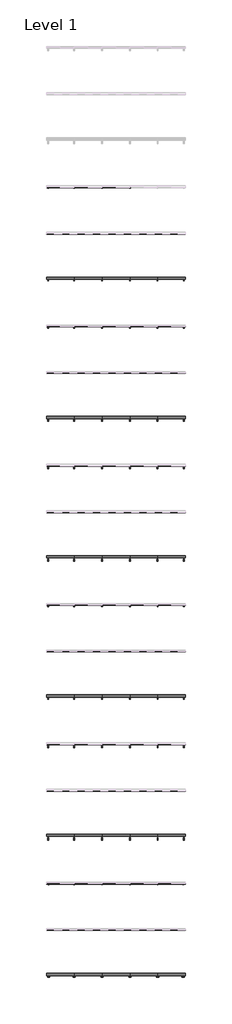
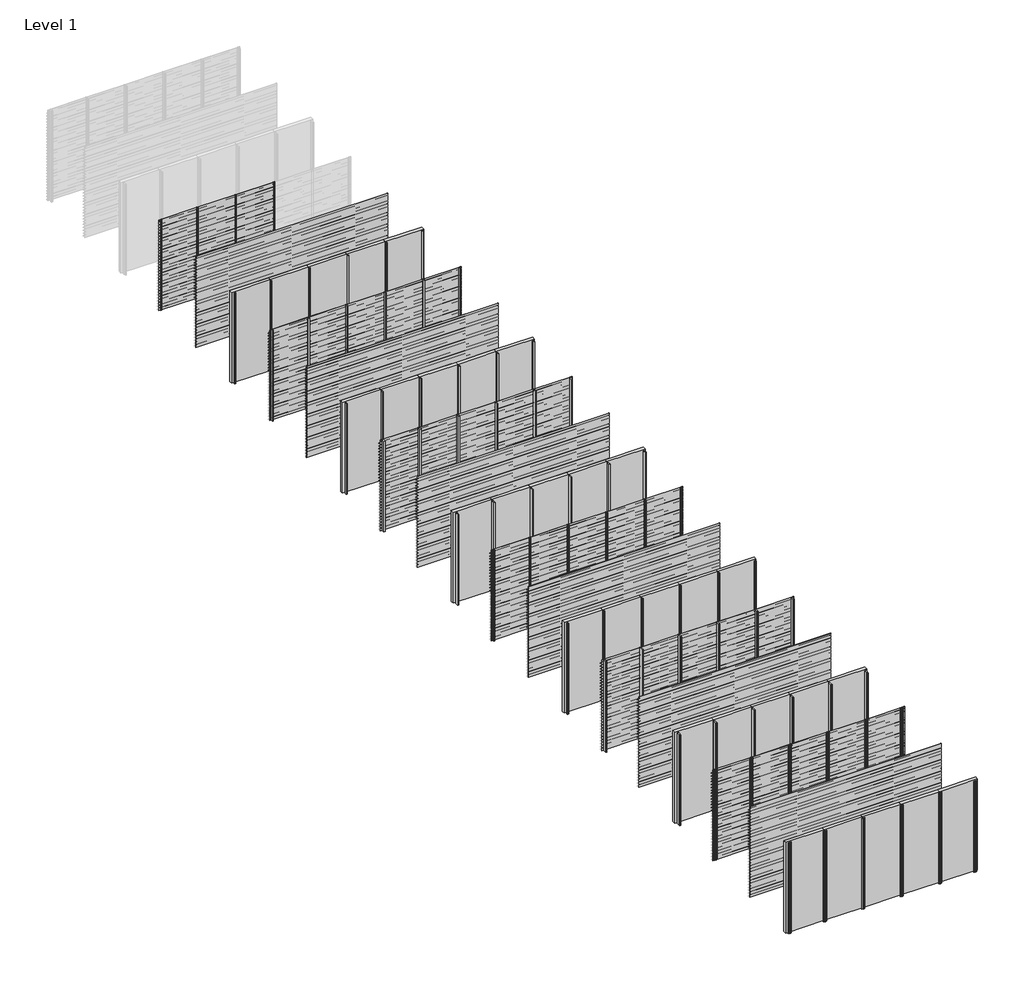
# One storey, part 1 of 24: 70 members, 64 plates.
"""IFC4 building model written with IfcOpenShell, lengths in millimetres."""

from ifc_helpers import new_model, si_unit, origin, origin_with_axes, place, context, project, spatial, polyline, outline, extrude, transform, mapped, element, save
from components import rectangular_mullion_3facce28, rectangular_mullion_6cf2c509, rectangular_mullion_8b77bd57, rectangular_mullion_2c867e25, rectangular_mullion_7803f5c4, rectangular_mullion_82152e2f, rectangular_mullion_2b84ad7e, rectangular_mullion_0fd695e7, rectangular_mullion_9b796d85, rectangular_mullion_dfb17e98, rectangular_mullion_6132f1f1, rectangular_mullion_8f153c19, rectangular_mullion_5b30f3fd, rectangular_mullion_5e0e8e0a, rectangular_mullion_d2d38772, rectangular_mullion_efb80f74, rectangular_mullion_aaa1fb1b, rectangular_mullion_ea9d012c, empty_system_panel_empty_aabbdda4

model = new_model("IFC4")

# Units and contexts
model_context = context("Model", 3, world=origin())
ifc_project = project(units=[si_unit("LENGTHUNIT", "METRE", prefix="MILLI")], contexts=[model_context])

# Site, building, storey
site = spatial("IfcSite", under=ifc_project)
building = spatial("IfcBuilding", under=site)
storey = spatial("IfcBuildingStorey", under=building, Name="Level 1", Elevation=0.0)

# Members
placement = place(None, origin())
rectangular_mullion_shape = rectangular_mullion_3facce28(model_context)
element("IfcMember", 1, ObjectType="Rectangular Mullion : NLRS_21_CWM_drager SD.014_Storax", at=placement, inside=storey, context=model_context, shape_type="MappedRepresentation", body=[
    mapped(rectangular_mullion_shape, transform((3600.0, -24000.0, 0.0), x_axis=(-1.0, 0.0, 0.0), y_axis=(0.0, 1.0, 0.0), z_axis=(0.0, 0.0, -1.0))),
])
element("IfcMember", 2, ObjectType="Rectangular Mullion : NLRS_21_CWM_drager SD.014_Storax", at=placement, inside=storey, context=model_context, shape_type="MappedRepresentation", body=[
    mapped(rectangular_mullion_shape, transform((2400.0, -24000.0, 0.0), x_axis=(-1.0, 0.0, 0.0), y_axis=(0.0, 1.0, 0.0), z_axis=(0.0, 0.0, -1.0))),
])
element("IfcMember", 3, ObjectType="Rectangular Mullion : NLRS_21_CWM_drager SD.014_Storax", at=placement, inside=storey, context=model_context, shape_type="MappedRepresentation", body=[
    mapped(rectangular_mullion_shape, transform((1200.0, -24000.0, 0.0), x_axis=(-1.0, 0.0, 0.0), y_axis=(0.0, 1.0, 0.0), z_axis=(0.0, 0.0, -1.0))),
])
element("IfcMember", 4, ObjectType="Rectangular Mullion : NLRS_21_CWM_drager SD.014_Storax", at=placement, inside=storey, context=model_context, shape_type="MappedRepresentation", body=[
    mapped(rectangular_mullion_shape, transform((4800.0, -28000.0, 0.0), x_axis=(-1.0, 0.0, 0.0), y_axis=(0.0, 1.0, 0.0), z_axis=(0.0, 0.0, -1.0))),
])
element("IfcMember", 5, ObjectType="Rectangular Mullion : NLRS_21_CWM_drager SD.014_Storax", at=placement, inside=storey, context=model_context, shape_type="MappedRepresentation", body=[
    mapped(rectangular_mullion_shape, transform((3600.0, -28000.0, 0.0), x_axis=(-1.0, 0.0, 0.0), y_axis=(0.0, 1.0, 0.0), z_axis=(0.0, 0.0, -1.0))),
])
element("IfcMember", 6, ObjectType="Rectangular Mullion : NLRS_21_CWM_drager SD.014_Storax", at=placement, inside=storey, context=model_context, shape_type="MappedRepresentation", body=[
    mapped(rectangular_mullion_shape, transform((2400.0, -28000.0, 0.0), x_axis=(-1.0, 0.0, 0.0), y_axis=(0.0, 1.0, 0.0), z_axis=(0.0, 0.0, -1.0))),
])
element("IfcMember", 7, ObjectType="Rectangular Mullion : NLRS_21_CWM_drager SD.014_Storax", at=placement, inside=storey, context=model_context, shape_type="MappedRepresentation", body=[
    mapped(rectangular_mullion_shape, transform((1200.0, -28000.0, 0.0), x_axis=(-1.0, 0.0, 0.0), y_axis=(0.0, 1.0, 0.0), z_axis=(0.0, 0.0, -1.0))),
])
rectangular_mullion_2_shape = rectangular_mullion_6cf2c509(model_context)
element("IfcMember", 8, ObjectType="Rectangular Mullion : NLRS_21_CWM_drager SD.054_Storax", at=placement, inside=storey, context=model_context, shape_type="MappedRepresentation", body=[
    mapped(rectangular_mullion_2_shape, transform((4800.0, -30000.0, 0.0), x_axis=(-1.0, 0.0, 0.0), y_axis=(0.0, 1.0, 0.0), z_axis=(0.0, 0.0, -1.0))),
])
element("IfcMember", 9, ObjectType="Rectangular Mullion : NLRS_21_CWM_drager SD.054_Storax", at=placement, inside=storey, context=model_context, shape_type="MappedRepresentation", body=[
    mapped(rectangular_mullion_2_shape, transform((3600.0, -30000.0, 0.0), x_axis=(-1.0, 0.0, 0.0), y_axis=(0.0, 1.0, 0.0), z_axis=(0.0, 0.0, -1.0))),
])
element("IfcMember", 10, ObjectType="Rectangular Mullion : NLRS_21_CWM_drager SD.054_Storax", at=placement, inside=storey, context=model_context, shape_type="MappedRepresentation", body=[
    mapped(rectangular_mullion_2_shape, transform((2400.0, -30000.0, 0.0), x_axis=(-1.0, 0.0, 0.0), y_axis=(0.0, 1.0, 0.0), z_axis=(0.0, 0.0, -1.0))),
])
element("IfcMember", 11, ObjectType="Rectangular Mullion : NLRS_21_CWM_drager SD.054_Storax", at=placement, inside=storey, context=model_context, shape_type="MappedRepresentation", body=[
    mapped(rectangular_mullion_2_shape, transform((1200.0, -30000.0, 0.0), x_axis=(-1.0, 0.0, 0.0), y_axis=(0.0, 1.0, 0.0), z_axis=(0.0, 0.0, -1.0))),
])
element("IfcMember", 12, ObjectType="Rectangular Mullion : NLRS_21_CWM_drager SD.054_Storax", at=placement, inside=storey, context=model_context, shape_type="MappedRepresentation", body=[
    mapped(rectangular_mullion_2_shape, transform((4800.0, -34000.0, 0.0), x_axis=(-1.0, 0.0, 0.0), y_axis=(0.0, 1.0, 0.0), z_axis=(0.0, 0.0, -1.0))),
])
element("IfcMember", 13, ObjectType="Rectangular Mullion : NLRS_21_CWM_drager SD.054_Storax", at=placement, inside=storey, context=model_context, shape_type="MappedRepresentation", body=[
    mapped(rectangular_mullion_2_shape, transform((3600.0, -34000.0, 0.0), x_axis=(-1.0, 0.0, 0.0), y_axis=(0.0, 1.0, 0.0), z_axis=(0.0, 0.0, -1.0))),
])
element("IfcMember", 14, ObjectType="Rectangular Mullion : NLRS_21_CWM_drager SD.054_Storax", at=placement, inside=storey, context=model_context, shape_type="MappedRepresentation", body=[
    mapped(rectangular_mullion_2_shape, transform((2400.0, -34000.0, 0.0), x_axis=(-1.0, 0.0, 0.0), y_axis=(0.0, 1.0, 0.0), z_axis=(0.0, 0.0, -1.0))),
])
element("IfcMember", 15, ObjectType="Rectangular Mullion : NLRS_21_CWM_drager SD.054_Storax", at=placement, inside=storey, context=model_context, shape_type="MappedRepresentation", body=[
    mapped(rectangular_mullion_2_shape, transform((1200.0, -34000.0, 0.0), x_axis=(-1.0, 0.0, 0.0), y_axis=(0.0, 1.0, 0.0), z_axis=(0.0, 0.0, -1.0))),
])
rectangular_mullion_3_shape = rectangular_mullion_8b77bd57(model_context)
element("IfcMember", 16, ObjectType="Rectangular Mullion : NLRS_21_CWM_drager SD.100_Storax", at=placement, inside=storey, context=model_context, shape_type="MappedRepresentation", body=[
    mapped(rectangular_mullion_3_shape, transform((4800.0, -36000.0, 0.0), x_axis=(-1.0, 0.0, 0.0), y_axis=(0.0, 1.0, 0.0), z_axis=(0.0, 0.0, -1.0))),
])
element("IfcMember", 17, ObjectType="Rectangular Mullion : NLRS_21_CWM_drager SD.100_Storax", at=placement, inside=storey, context=model_context, shape_type="MappedRepresentation", body=[
    mapped(rectangular_mullion_3_shape, transform((3600.0, -36000.0, 0.0), x_axis=(-1.0, 0.0, 0.0), y_axis=(0.0, 1.0, 0.0), z_axis=(0.0, 0.0, -1.0))),
])
element("IfcMember", 18, ObjectType="Rectangular Mullion : NLRS_21_CWM_drager SD.100_Storax", at=placement, inside=storey, context=model_context, shape_type="MappedRepresentation", body=[
    mapped(rectangular_mullion_3_shape, transform((2400.0, -36000.0, 0.0), x_axis=(-1.0, 0.0, 0.0), y_axis=(0.0, 1.0, 0.0), z_axis=(0.0, 0.0, -1.0))),
])
element("IfcMember", 19, ObjectType="Rectangular Mullion : NLRS_21_CWM_drager SD.100_Storax", at=placement, inside=storey, context=model_context, shape_type="MappedRepresentation", body=[
    mapped(rectangular_mullion_3_shape, transform((1200.0, -36000.0, 0.0), x_axis=(-1.0, 0.0, 0.0), y_axis=(0.0, 1.0, 0.0), z_axis=(0.0, 0.0, -1.0))),
])
element("IfcMember", 20, ObjectType="Rectangular Mullion : NLRS_21_CWM_drager SD.100_Storax", at=placement, inside=storey, context=model_context, shape_type="MappedRepresentation", body=[
    mapped(rectangular_mullion_3_shape, transform((4800.0, -40000.0, 0.0), x_axis=(-1.0, 0.0, 0.0), y_axis=(0.0, 1.0, 0.0), z_axis=(0.0, 0.0, -1.0))),
])
element("IfcMember", 21, ObjectType="Rectangular Mullion : NLRS_21_CWM_drager SD.100_Storax", at=placement, inside=storey, context=model_context, shape_type="MappedRepresentation", body=[
    mapped(rectangular_mullion_3_shape, transform((3600.0, -40000.0, 0.0), x_axis=(-1.0, 0.0, 0.0), y_axis=(0.0, 1.0, 0.0), z_axis=(0.0, 0.0, -1.0))),
])
element("IfcMember", 22, ObjectType="Rectangular Mullion : NLRS_21_CWM_drager SD.100_Storax", at=placement, inside=storey, context=model_context, shape_type="MappedRepresentation", body=[
    mapped(rectangular_mullion_3_shape, transform((2400.0, -40000.0, 0.0), x_axis=(-1.0, 0.0, 0.0), y_axis=(0.0, 1.0, 0.0), z_axis=(0.0, 0.0, -1.0))),
])
element("IfcMember", 23, ObjectType="Rectangular Mullion : NLRS_21_CWM_drager SD.100_Storax", at=placement, inside=storey, context=model_context, shape_type="MappedRepresentation", body=[
    mapped(rectangular_mullion_3_shape, transform((1200.0, -40000.0, 0.0), x_axis=(-1.0, 0.0, 0.0), y_axis=(0.0, 1.0, 0.0), z_axis=(0.0, 0.0, -1.0))),
])
rectangular_mullion_4_shape = rectangular_mullion_2c867e25(model_context)
element("IfcMember", 24, ObjectType="Rectangular Mullion : NLRS_21_CWM_drager LD.0440_Storax", at=placement, inside=storey, context=model_context, shape_type="MappedRepresentation", body=[
    mapped(rectangular_mullion_4_shape, transform((4800.0, -42000.0, 0.0), x_axis=(-1.0, 0.0, 0.0), y_axis=(0.0, 1.0, 0.0), z_axis=(0.0, 0.0, -1.0))),
])
element("IfcMember", 25, ObjectType="Rectangular Mullion : NLRS_21_CWM_drager LD.0440_Storax", at=placement, inside=storey, context=model_context, shape_type="MappedRepresentation", body=[
    mapped(rectangular_mullion_4_shape, transform((3600.0, -42000.0, 0.0), x_axis=(-1.0, 0.0, 0.0), y_axis=(0.0, 1.0, 0.0), z_axis=(0.0, 0.0, -1.0))),
])
element("IfcMember", 26, ObjectType="Rectangular Mullion : NLRS_21_CWM_drager LD.0440_Storax", at=placement, inside=storey, context=model_context, shape_type="MappedRepresentation", body=[
    mapped(rectangular_mullion_4_shape, transform((2400.0, -42000.0, 0.0), x_axis=(-1.0, 0.0, 0.0), y_axis=(0.0, 1.0, 0.0), z_axis=(0.0, 0.0, -1.0))),
])
element("IfcMember", 27, ObjectType="Rectangular Mullion : NLRS_21_CWM_drager LD.0440_Storax", at=placement, inside=storey, context=model_context, shape_type="MappedRepresentation", body=[
    mapped(rectangular_mullion_4_shape, transform((1200.0, -42000.0, 0.0), x_axis=(-1.0, 0.0, 0.0), y_axis=(0.0, 1.0, 0.0), z_axis=(0.0, 0.0, -1.0))),
])
element("IfcMember", 28, ObjectType="Rectangular Mullion : NLRS_21_CWM_drager LD.0440_Storax", at=placement, inside=storey, context=model_context, shape_type="MappedRepresentation", body=[
    mapped(rectangular_mullion_4_shape, transform((4800.0, -46000.0, 0.0), x_axis=(-1.0, 0.0, 0.0), y_axis=(0.0, 1.0, 0.0), z_axis=(0.0, 0.0, -1.0))),
])
element("IfcMember", 29, ObjectType="Rectangular Mullion : NLRS_21_CWM_drager LD.0440_Storax", at=placement, inside=storey, context=model_context, shape_type="MappedRepresentation", body=[
    mapped(rectangular_mullion_4_shape, transform((3600.0, -46000.0, 0.0), x_axis=(-1.0, 0.0, 0.0), y_axis=(0.0, 1.0, 0.0), z_axis=(0.0, 0.0, -1.0))),
])
element("IfcMember", 30, ObjectType="Rectangular Mullion : NLRS_21_CWM_drager LD.0440_Storax", at=placement, inside=storey, context=model_context, shape_type="MappedRepresentation", body=[
    mapped(rectangular_mullion_4_shape, transform((2400.0, -46000.0, 0.0), x_axis=(-1.0, 0.0, 0.0), y_axis=(0.0, 1.0, 0.0), z_axis=(0.0, 0.0, -1.0))),
])
element("IfcMember", 31, ObjectType="Rectangular Mullion : NLRS_21_CWM_drager LD.0440_Storax", at=placement, inside=storey, context=model_context, shape_type="MappedRepresentation", body=[
    mapped(rectangular_mullion_4_shape, transform((1200.0, -46000.0, 0.0), x_axis=(-1.0, 0.0, 0.0), y_axis=(0.0, 1.0, 0.0), z_axis=(0.0, 0.0, -1.0))),
])
rectangular_mullion_5_shape = rectangular_mullion_7803f5c4(model_context)
element("IfcMember", 32, ObjectType="Rectangular Mullion : NLRS_21_CWM_drager LD.1250_Storax", at=placement, inside=storey, context=model_context, shape_type="MappedRepresentation", body=[
    mapped(rectangular_mullion_5_shape, transform((4800.0, -48000.0, 0.0), x_axis=(-1.0, 0.0, 0.0), y_axis=(0.0, 1.0, 0.0), z_axis=(0.0, 0.0, -1.0))),
])
element("IfcMember", 33, ObjectType="Rectangular Mullion : NLRS_21_CWM_drager LD.1250_Storax", at=placement, inside=storey, context=model_context, shape_type="MappedRepresentation", body=[
    mapped(rectangular_mullion_5_shape, transform((3600.0, -48000.0, 0.0), x_axis=(-1.0, 0.0, 0.0), y_axis=(0.0, 1.0, 0.0), z_axis=(0.0, 0.0, -1.0))),
])
element("IfcMember", 34, ObjectType="Rectangular Mullion : NLRS_21_CWM_drager LD.1250_Storax", at=placement, inside=storey, context=model_context, shape_type="MappedRepresentation", body=[
    mapped(rectangular_mullion_5_shape, transform((2400.0, -48000.0, 0.0), x_axis=(-1.0, 0.0, 0.0), y_axis=(0.0, 1.0, 0.0), z_axis=(0.0, 0.0, -1.0))),
])
element("IfcMember", 35, ObjectType="Rectangular Mullion : NLRS_21_CWM_drager LD.1250_Storax", at=placement, inside=storey, context=model_context, shape_type="MappedRepresentation", body=[
    mapped(rectangular_mullion_5_shape, transform((1200.0, -48000.0, 0.0), x_axis=(-1.0, 0.0, 0.0), y_axis=(0.0, 1.0, 0.0), z_axis=(0.0, 0.0, -1.0))),
])
element("IfcMember", 36, ObjectType="Rectangular Mullion : NLRS_21_CWM_drager LD.1250_Storax", at=placement, inside=storey, context=model_context, shape_type="MappedRepresentation", body=[
    mapped(rectangular_mullion_5_shape, transform((4800.0, -52000.0, 0.0), x_axis=(-1.0, 0.0, 0.0), y_axis=(0.0, 1.0, 0.0), z_axis=(0.0, 0.0, -1.0))),
])
element("IfcMember", 37, ObjectType="Rectangular Mullion : NLRS_21_CWM_drager LD.1250_Storax", at=placement, inside=storey, context=model_context, shape_type="MappedRepresentation", body=[
    mapped(rectangular_mullion_5_shape, transform((3600.0, -52000.0, 0.0), x_axis=(-1.0, 0.0, 0.0), y_axis=(0.0, 1.0, 0.0), z_axis=(0.0, 0.0, -1.0))),
])
element("IfcMember", 38, ObjectType="Rectangular Mullion : NLRS_21_CWM_drager LD.1250_Storax", at=placement, inside=storey, context=model_context, shape_type="MappedRepresentation", body=[
    mapped(rectangular_mullion_5_shape, transform((2400.0, -52000.0, 0.0), x_axis=(-1.0, 0.0, 0.0), y_axis=(0.0, 1.0, 0.0), z_axis=(0.0, 0.0, -1.0))),
])
element("IfcMember", 39, ObjectType="Rectangular Mullion : NLRS_21_CWM_drager LD.1250_Storax", at=placement, inside=storey, context=model_context, shape_type="MappedRepresentation", body=[
    mapped(rectangular_mullion_5_shape, transform((1200.0, -52000.0, 0.0), x_axis=(-1.0, 0.0, 0.0), y_axis=(0.0, 1.0, 0.0), z_axis=(0.0, 0.0, -1.0))),
])
rectangular_mullion_6_shape = rectangular_mullion_82152e2f(model_context)
element("IfcMember", 40, ObjectType="Rectangular Mullion : NLRS_21_CWM_drager LD.0240_Storax", at=placement, inside=storey, context=model_context, shape_type="MappedRepresentation", body=[
    mapped(rectangular_mullion_6_shape, transform((4800.0, -54000.0, 0.0), x_axis=(-1.0, 0.0, 0.0), y_axis=(0.0, 1.0, 0.0), z_axis=(0.0, 0.0, -1.0))),
])
element("IfcMember", 41, ObjectType="Rectangular Mullion : NLRS_21_CWM_drager LD.0240_Storax", at=placement, inside=storey, context=model_context, shape_type="MappedRepresentation", body=[
    mapped(rectangular_mullion_6_shape, transform((3600.0, -54000.0, 0.0), x_axis=(-1.0, 0.0, 0.0), y_axis=(0.0, 1.0, 0.0), z_axis=(0.0, 0.0, -1.0))),
])
element("IfcMember", 42, ObjectType="Rectangular Mullion : NLRS_21_CWM_drager LD.0240_Storax", at=placement, inside=storey, context=model_context, shape_type="MappedRepresentation", body=[
    mapped(rectangular_mullion_6_shape, transform((2400.0, -54000.0, 0.0), x_axis=(-1.0, 0.0, 0.0), y_axis=(0.0, 1.0, 0.0), z_axis=(0.0, 0.0, -1.0))),
])
element("IfcMember", 43, ObjectType="Rectangular Mullion : NLRS_21_CWM_drager LD.0240_Storax", at=placement, inside=storey, context=model_context, shape_type="MappedRepresentation", body=[
    mapped(rectangular_mullion_6_shape, transform((1200.0, -54000.0, 0.0), x_axis=(-1.0, 0.0, 0.0), y_axis=(0.0, 1.0, 0.0), z_axis=(0.0, 0.0, -1.0))),
])
element("IfcMember", 44, ObjectType="Rectangular Mullion : NLRS_21_CWM_drager LD.0240_Storax", at=placement, inside=storey, context=model_context, shape_type="MappedRepresentation", body=[
    mapped(rectangular_mullion_6_shape, transform((4800.0, -58000.0, 0.0), x_axis=(-1.0, 0.0, 0.0), y_axis=(0.0, 1.0, 0.0), z_axis=(0.0, 0.0, -1.0))),
])
element("IfcMember", 45, ObjectType="Rectangular Mullion : NLRS_21_CWM_drager LD.0240_Storax", at=placement, inside=storey, context=model_context, shape_type="MappedRepresentation", body=[
    mapped(rectangular_mullion_6_shape, transform((3600.0, -58000.0, 0.0), x_axis=(-1.0, 0.0, 0.0), y_axis=(0.0, 1.0, 0.0), z_axis=(0.0, 0.0, -1.0))),
])
element("IfcMember", 46, ObjectType="Rectangular Mullion : NLRS_21_CWM_drager LD.0240_Storax", at=placement, inside=storey, context=model_context, shape_type="MappedRepresentation", body=[
    mapped(rectangular_mullion_6_shape, transform((2400.0, -58000.0, 0.0), x_axis=(-1.0, 0.0, 0.0), y_axis=(0.0, 1.0, 0.0), z_axis=(0.0, 0.0, -1.0))),
])
element("IfcMember", 47, ObjectType="Rectangular Mullion : NLRS_21_CWM_drager LD.0240_Storax", at=placement, inside=storey, context=model_context, shape_type="MappedRepresentation", body=[
    mapped(rectangular_mullion_6_shape, transform((1200.0, -58000.0, 0.0), x_axis=(-1.0, 0.0, 0.0), y_axis=(0.0, 1.0, 0.0), z_axis=(0.0, 0.0, -1.0))),
])
rectangular_mullion_7_shape = rectangular_mullion_2b84ad7e(model_context)
element("IfcMember", 48, ObjectType="Rectangular Mullion : NLRS_21_CWM_drager SD.014 - links_Storax", at=placement, inside=storey, context=model_context, shape_type="MappedRepresentation", body=[
    mapped(rectangular_mullion_7_shape, transform((0.0, -24000.0, 0.0), x_axis=(-1.0, 0.0, 0.0), y_axis=(0.0, 1.0, 0.0), z_axis=(0.0, 0.0, -1.0))),
])
element("IfcMember", 49, ObjectType="Rectangular Mullion : NLRS_21_CWM_drager SD.014 - links_Storax", at=placement, inside=storey, context=model_context, shape_type="MappedRepresentation", body=[
    mapped(rectangular_mullion_7_shape, transform((0.0, -28000.0, 0.0), x_axis=(-1.0, 0.0, 0.0), y_axis=(0.0, 1.0, 0.0), z_axis=(0.0, 0.0, -1.0))),
])
rectangular_mullion_8_shape = rectangular_mullion_0fd695e7(model_context)
element("IfcMember", 50, ObjectType="Rectangular Mullion : NLRS_21_CWM_drager SD.014 - rechts_Storax", at=placement, inside=storey, context=model_context, shape_type="MappedRepresentation", body=[
    mapped(rectangular_mullion_8_shape, transform((6000.0, -28000.0, 3000.0), x_axis=(1.0, 0.0, 0.0), y_axis=(0.0, 1.0, 0.0), z_axis=(0.0, 0.0, 1.0))),
])
rectangular_mullion_9_shape = rectangular_mullion_9b796d85(model_context)
element("IfcMember", 51, ObjectType="Rectangular Mullion : NLRS_21_CWM_drager SD.054 - links_Storax", at=placement, inside=storey, context=model_context, shape_type="MappedRepresentation", body=[
    mapped(rectangular_mullion_9_shape, transform((0.0, -30000.0, 0.0), x_axis=(-1.0, 0.0, 0.0), y_axis=(0.0, 1.0, 0.0), z_axis=(0.0, 0.0, -1.0))),
])
element("IfcMember", 52, ObjectType="Rectangular Mullion : NLRS_21_CWM_drager SD.054 - links_Storax", at=placement, inside=storey, context=model_context, shape_type="MappedRepresentation", body=[
    mapped(rectangular_mullion_9_shape, transform((0.0, -34000.0, 0.0), x_axis=(-1.0, 0.0, 0.0), y_axis=(0.0, 1.0, 0.0), z_axis=(0.0, 0.0, -1.0))),
])
rectangular_mullion_10_shape = rectangular_mullion_dfb17e98(model_context)
element("IfcMember", 53, ObjectType="Rectangular Mullion : NLRS_21_CWM_drager SD.054 - rechts_Storax", at=placement, inside=storey, context=model_context, shape_type="MappedRepresentation", body=[
    mapped(rectangular_mullion_10_shape, transform((6000.0, -30000.0, 3000.0), x_axis=(1.0, 0.0, 0.0), y_axis=(0.0, 1.0, 0.0), z_axis=(0.0, 0.0, 1.0))),
])
element("IfcMember", 54, ObjectType="Rectangular Mullion : NLRS_21_CWM_drager SD.054 - rechts_Storax", at=placement, inside=storey, context=model_context, shape_type="MappedRepresentation", body=[
    mapped(rectangular_mullion_10_shape, transform((6000.0, -34000.0, 3000.0), x_axis=(1.0, 0.0, 0.0), y_axis=(0.0, 1.0, 0.0), z_axis=(0.0, 0.0, 1.0))),
])
rectangular_mullion_11_shape = rectangular_mullion_6132f1f1(model_context)
element("IfcMember", 55, ObjectType="Rectangular Mullion : NLRS_21_CWM_drager SD.100 - links_Storax", at=placement, inside=storey, context=model_context, shape_type="MappedRepresentation", body=[
    mapped(rectangular_mullion_11_shape, transform((0.0, -36000.0, 0.0), x_axis=(-1.0, 0.0, 0.0), y_axis=(0.0, 1.0, 0.0), z_axis=(0.0, 0.0, -1.0))),
])
element("IfcMember", 56, ObjectType="Rectangular Mullion : NLRS_21_CWM_drager SD.100 - links_Storax", at=placement, inside=storey, context=model_context, shape_type="MappedRepresentation", body=[
    mapped(rectangular_mullion_11_shape, transform((0.0, -40000.0, 0.0), x_axis=(-1.0, 0.0, 0.0), y_axis=(0.0, 1.0, 0.0), z_axis=(0.0, 0.0, -1.0))),
])
rectangular_mullion_12_shape = rectangular_mullion_8f153c19(model_context)
element("IfcMember", 57, ObjectType="Rectangular Mullion : NLRS_21_CWM_drager SD.100 - rechts_Storax", at=placement, inside=storey, context=model_context, shape_type="MappedRepresentation", body=[
    mapped(rectangular_mullion_12_shape, transform((6000.0, -36000.0, 3000.0), x_axis=(1.0, 0.0, 0.0), y_axis=(0.0, 1.0, 0.0), z_axis=(0.0, 0.0, 1.0))),
])
element("IfcMember", 58, ObjectType="Rectangular Mullion : NLRS_21_CWM_drager SD.100 - rechts_Storax", at=placement, inside=storey, context=model_context, shape_type="MappedRepresentation", body=[
    mapped(rectangular_mullion_12_shape, transform((6000.0, -40000.0, 3000.0), x_axis=(1.0, 0.0, 0.0), y_axis=(0.0, 1.0, 0.0), z_axis=(0.0, 0.0, 1.0))),
])
rectangular_mullion_13_shape = rectangular_mullion_5b30f3fd(model_context)
element("IfcMember", 59, ObjectType="Rectangular Mullion : NLRS_21_CWM_drager LD.0440 - links_Storax", at=placement, inside=storey, context=model_context, shape_type="MappedRepresentation", body=[
    mapped(rectangular_mullion_13_shape, transform((0.0, -42000.0, 0.0), x_axis=(-1.0, 0.0, 0.0), y_axis=(0.0, 1.0, 0.0), z_axis=(0.0, 0.0, -1.0))),
])
element("IfcMember", 60, ObjectType="Rectangular Mullion : NLRS_21_CWM_drager LD.0440 - links_Storax", at=placement, inside=storey, context=model_context, shape_type="MappedRepresentation", body=[
    mapped(rectangular_mullion_13_shape, transform((0.0, -46000.0, 0.0), x_axis=(-1.0, 0.0, 0.0), y_axis=(0.0, 1.0, 0.0), z_axis=(0.0, 0.0, -1.0))),
])
rectangular_mullion_14_shape = rectangular_mullion_5e0e8e0a(model_context)
element("IfcMember", 61, ObjectType="Rectangular Mullion : NLRS_21_CWM_drager LD.0440 - rechts_Storax", at=placement, inside=storey, context=model_context, shape_type="MappedRepresentation", body=[
    mapped(rectangular_mullion_14_shape, transform((6000.0, -42000.0, 3000.0), x_axis=(1.0, 0.0, 0.0), y_axis=(0.0, 1.0, 0.0), z_axis=(0.0, 0.0, 1.0))),
])
element("IfcMember", 62, ObjectType="Rectangular Mullion : NLRS_21_CWM_drager LD.0440 - rechts_Storax", at=placement, inside=storey, context=model_context, shape_type="MappedRepresentation", body=[
    mapped(rectangular_mullion_14_shape, transform((6000.0, -46000.0, 3000.0), x_axis=(1.0, 0.0, 0.0), y_axis=(0.0, 1.0, 0.0), z_axis=(0.0, 0.0, 1.0))),
])
rectangular_mullion_15_shape = rectangular_mullion_d2d38772(model_context)
element("IfcMember", 63, ObjectType="Rectangular Mullion : NLRS_21_CWM_drager LD.1250 - links_Storax", at=placement, inside=storey, context=model_context, shape_type="MappedRepresentation", body=[
    mapped(rectangular_mullion_15_shape, transform((0.0, -48000.0, 0.0), x_axis=(-1.0, 0.0, 0.0), y_axis=(0.0, 1.0, 0.0), z_axis=(0.0, 0.0, -1.0))),
])
element("IfcMember", 64, ObjectType="Rectangular Mullion : NLRS_21_CWM_drager LD.1250 - links_Storax", at=placement, inside=storey, context=model_context, shape_type="MappedRepresentation", body=[
    mapped(rectangular_mullion_15_shape, transform((0.0, -52000.0, 0.0), x_axis=(-1.0, 0.0, 0.0), y_axis=(0.0, 1.0, 0.0), z_axis=(0.0, 0.0, -1.0))),
])
rectangular_mullion_16_shape = rectangular_mullion_efb80f74(model_context)
element("IfcMember", 65, ObjectType="Rectangular Mullion : NLRS_21_CWM_drager LD.1250 - rechts_Storax", at=placement, inside=storey, context=model_context, shape_type="MappedRepresentation", body=[
    mapped(rectangular_mullion_16_shape, transform((6000.0, -48000.0, 3000.0), x_axis=(1.0, 0.0, 0.0), y_axis=(0.0, 1.0, 0.0), z_axis=(0.0, 0.0, 1.0))),
])
element("IfcMember", 66, ObjectType="Rectangular Mullion : NLRS_21_CWM_drager LD.1250 - rechts_Storax", at=placement, inside=storey, context=model_context, shape_type="MappedRepresentation", body=[
    mapped(rectangular_mullion_16_shape, transform((6000.0, -52000.0, 3000.0), x_axis=(1.0, 0.0, 0.0), y_axis=(0.0, 1.0, 0.0), z_axis=(0.0, 0.0, 1.0))),
])
rectangular_mullion_17_shape = rectangular_mullion_aaa1fb1b(model_context)
element("IfcMember", 67, ObjectType="Rectangular Mullion : NLRS_21_CWM_drager LD.0240 - links_Storax", at=placement, inside=storey, context=model_context, shape_type="MappedRepresentation", body=[
    mapped(rectangular_mullion_17_shape, transform((0.0, -54000.0, 0.0), x_axis=(-1.0, 0.0, 0.0), y_axis=(0.0, 1.0, 0.0), z_axis=(0.0, 0.0, -1.0))),
])
element("IfcMember", 68, ObjectType="Rectangular Mullion : NLRS_21_CWM_drager LD.0240 - links_Storax", at=placement, inside=storey, context=model_context, shape_type="MappedRepresentation", body=[
    mapped(rectangular_mullion_17_shape, transform((0.0, -58000.0, 0.0), x_axis=(-1.0, 0.0, 0.0), y_axis=(0.0, 1.0, 0.0), z_axis=(0.0, 0.0, -1.0))),
])
rectangular_mullion_18_shape = rectangular_mullion_ea9d012c(model_context)
element("IfcMember", 69, ObjectType="Rectangular Mullion : NLRS_21_CWM_drager LD.0240 - rechts_Storax", at=placement, inside=storey, context=model_context, shape_type="MappedRepresentation", body=[
    mapped(rectangular_mullion_18_shape, transform((6000.0, -54000.0, 3000.0), x_axis=(1.0, 0.0, 0.0), y_axis=(0.0, 1.0, 0.0), z_axis=(0.0, 0.0, 1.0))),
])
element("IfcMember", 70, ObjectType="Rectangular Mullion : NLRS_21_CWM_drager LD.0240 - rechts_Storax", at=placement, inside=storey, context=model_context, shape_type="MappedRepresentation", body=[
    mapped(rectangular_mullion_18_shape, transform((6000.0, -58000.0, 3000.0), x_axis=(1.0, 0.0, 0.0), y_axis=(0.0, 1.0, 0.0), z_axis=(0.0, 0.0, 1.0))),
])

# Plates
element("IfcPlate", 71, ObjectType="NLRS_21_WA_lamellenwand Linius - L.095.01_Storax", at=placement, inside=storey, context=model_context, shape_type="SweptSolid", body=[
    extrude(outline(polyline([(0.0, -23999.0), (1200.0, -23999.0), (1200.0, -24001.0), (0.0, -24001.0), (0.0, -23999.0)])), origin_with_axes(), (0.0, 0.0, 1.0), 3000.0),
])
element("IfcPlate", 72, ObjectType="NLRS_21_WA_lamellenwand Linius - L.095.01_Storax", at=placement, inside=storey, context=model_context, shape_type="SweptSolid", body=[
    extrude(outline(polyline([(1200.0, -23999.0), (2400.0, -23999.0), (2400.0, -24001.0), (1200.0, -24001.0), (1200.0, -23999.0)])), origin_with_axes(), (0.0, 0.0, 1.0), 3000.0),
])
element("IfcPlate", 73, ObjectType="NLRS_21_WA_lamellenwand Linius - L.095.01_Storax", at=placement, inside=storey, context=model_context, shape_type="SweptSolid", body=[
    extrude(outline(polyline([(2400.0, -23999.0), (3600.0, -23999.0), (3600.0, -24001.0), (2400.0, -24001.0), (2400.0, -23999.0)])), origin_with_axes(), (0.0, 0.0, 1.0), 3000.0),
])
element("IfcPlate", 74, ObjectType="NLRS_21_WA_lamellenwand Linius - L.095.01_Storax", at=placement, inside=storey, context=model_context, shape_type="SweptSolid", body=[
    extrude(outline(polyline([(0.0, -25999.0), (6000.0, -25999.0), (6000.0, -26001.0), (0.0, -26001.0), (0.0, -25999.0)])), origin_with_axes(), (0.0, 0.0, 1.0), 3000.0),
])
element("IfcPlate", 75, ObjectType="NLRS_21_WA_lamellenwand Linius - L.095.01_Storax", at=placement, inside=storey, context=model_context, shape_type="SweptSolid", body=[
    extrude(outline(polyline([(0.0, -29999.0), (1200.0, -29999.0), (1200.0, -30001.0), (0.0, -30001.0), (0.0, -29999.0)])), origin_with_axes(), (0.0, 0.0, 1.0), 3000.0),
])
element("IfcPlate", 76, ObjectType="NLRS_21_WA_lamellenwand Linius - L.095.01_Storax", at=placement, inside=storey, context=model_context, shape_type="SweptSolid", body=[
    extrude(outline(polyline([(1200.0, -29999.0), (2400.0, -29999.0), (2400.0, -30001.0), (1200.0, -30001.0), (1200.0, -29999.0)])), origin_with_axes(), (0.0, 0.0, 1.0), 3000.0),
])
element("IfcPlate", 77, ObjectType="NLRS_21_WA_lamellenwand Linius - L.095.01_Storax", at=placement, inside=storey, context=model_context, shape_type="SweptSolid", body=[
    extrude(outline(polyline([(2400.0, -29999.0), (3600.0, -29999.0), (3600.0, -30001.0), (2400.0, -30001.0), (2400.0, -29999.0)])), origin_with_axes(), (0.0, 0.0, 1.0), 3000.0),
])
element("IfcPlate", 78, ObjectType="NLRS_21_WA_lamellenwand Linius - L.095.01_Storax", at=placement, inside=storey, context=model_context, shape_type="SweptSolid", body=[
    extrude(outline(polyline([(3600.0, -29999.0), (4800.0, -29999.0), (4800.0, -30001.0), (3600.0, -30001.0), (3600.0, -29999.0)])), origin_with_axes(), (0.0, 0.0, 1.0), 3000.0),
])
element("IfcPlate", 79, ObjectType="NLRS_21_WA_lamellenwand Linius - L.095.01_Storax", at=placement, inside=storey, context=model_context, shape_type="SweptSolid", body=[
    extrude(outline(polyline([(4800.0, -29999.0), (6000.0, -29999.0), (6000.0, -30001.0), (4800.0, -30001.0), (4800.0, -29999.0)])), origin_with_axes(), (0.0, 0.0, 1.0), 3000.0),
])
element("IfcPlate", 80, ObjectType="NLRS_21_WA_lamellenwand Linius - L.095.01_Storax", at=placement, inside=storey, context=model_context, shape_type="SweptSolid", body=[
    extrude(outline(polyline([(0.0, -31999.0), (6000.0, -31999.0), (6000.0, -32001.0), (0.0, -32001.0), (0.0, -31999.0)])), origin_with_axes(), (0.0, 0.0, 1.0), 3000.0),
])
element("IfcPlate", 81, ObjectType="NLRS_21_WA_lamellenwand Linius - L.095.01_Storax", at=placement, inside=storey, context=model_context, shape_type="SweptSolid", body=[
    extrude(outline(polyline([(0.0, -35999.0), (1200.0, -35999.0), (1200.0, -36001.0), (0.0, -36001.0), (0.0, -35999.0)])), origin_with_axes(), (0.0, 0.0, 1.0), 3000.0),
])
element("IfcPlate", 82, ObjectType="NLRS_21_WA_lamellenwand Linius - L.095.01_Storax", at=placement, inside=storey, context=model_context, shape_type="SweptSolid", body=[
    extrude(outline(polyline([(1200.0, -35999.0), (2400.0, -35999.0), (2400.0, -36001.0), (1200.0, -36001.0), (1200.0, -35999.0)])), origin_with_axes(), (0.0, 0.0, 1.0), 3000.0),
])
element("IfcPlate", 83, ObjectType="NLRS_21_WA_lamellenwand Linius - L.095.01_Storax", at=placement, inside=storey, context=model_context, shape_type="SweptSolid", body=[
    extrude(outline(polyline([(2400.0, -35999.0), (3600.0, -35999.0), (3600.0, -36001.0), (2400.0, -36001.0), (2400.0, -35999.0)])), origin_with_axes(), (0.0, 0.0, 1.0), 3000.0),
])
element("IfcPlate", 84, ObjectType="NLRS_21_WA_lamellenwand Linius - L.095.01_Storax", at=placement, inside=storey, context=model_context, shape_type="SweptSolid", body=[
    extrude(outline(polyline([(3600.0, -35999.0), (4800.0, -35999.0), (4800.0, -36001.0), (3600.0, -36001.0), (3600.0, -35999.0)])), origin_with_axes(), (0.0, 0.0, 1.0), 3000.0),
])
element("IfcPlate", 85, ObjectType="NLRS_21_WA_lamellenwand Linius - L.095.01_Storax", at=placement, inside=storey, context=model_context, shape_type="SweptSolid", body=[
    extrude(outline(polyline([(4800.0, -35999.0), (6000.0, -35999.0), (6000.0, -36001.0), (4800.0, -36001.0), (4800.0, -35999.0)])), origin_with_axes(), (0.0, 0.0, 1.0), 3000.0),
])
element("IfcPlate", 86, ObjectType="NLRS_21_WA_lamellenwand Linius - L.095.01_Storax", at=placement, inside=storey, context=model_context, shape_type="SweptSolid", body=[
    extrude(outline(polyline([(0.0, -37999.0), (6000.0, -37999.0), (6000.0, -38001.0), (0.0, -38001.0), (0.0, -37999.0)])), origin_with_axes(), (0.0, 0.0, 1.0), 3000.0),
])
element("IfcPlate", 87, ObjectType="NLRS_21_WA_lamellenwand Linius - L.095.01_Storax", at=placement, inside=storey, context=model_context, shape_type="SweptSolid", body=[
    extrude(outline(polyline([(0.0, -41999.0), (1200.0, -41999.0), (1200.0, -42001.0), (0.0, -42001.0), (0.0, -41999.0)])), origin_with_axes(), (0.0, 0.0, 1.0), 3000.0),
])
element("IfcPlate", 88, ObjectType="NLRS_21_WA_lamellenwand Linius - L.095.01_Storax", at=placement, inside=storey, context=model_context, shape_type="SweptSolid", body=[
    extrude(outline(polyline([(1200.0, -41999.0), (2400.0, -41999.0), (2400.0, -42001.0), (1200.0, -42001.0), (1200.0, -41999.0)])), origin_with_axes(), (0.0, 0.0, 1.0), 3000.0),
])
element("IfcPlate", 89, ObjectType="NLRS_21_WA_lamellenwand Linius - L.095.01_Storax", at=placement, inside=storey, context=model_context, shape_type="SweptSolid", body=[
    extrude(outline(polyline([(2400.0, -41999.0), (3600.0, -41999.0), (3600.0, -42001.0), (2400.0, -42001.0), (2400.0, -41999.0)])), origin_with_axes(), (0.0, 0.0, 1.0), 3000.0),
])
element("IfcPlate", 90, ObjectType="NLRS_21_WA_lamellenwand Linius - L.095.01_Storax", at=placement, inside=storey, context=model_context, shape_type="SweptSolid", body=[
    extrude(outline(polyline([(3600.0, -41999.0), (4800.0, -41999.0), (4800.0, -42001.0), (3600.0, -42001.0), (3600.0, -41999.0)])), origin_with_axes(), (0.0, 0.0, 1.0), 3000.0),
])
element("IfcPlate", 91, ObjectType="NLRS_21_WA_lamellenwand Linius - L.095.01_Storax", at=placement, inside=storey, context=model_context, shape_type="SweptSolid", body=[
    extrude(outline(polyline([(4800.0, -41999.0), (6000.0, -41999.0), (6000.0, -42001.0), (4800.0, -42001.0), (4800.0, -41999.0)])), origin_with_axes(), (0.0, 0.0, 1.0), 3000.0),
])
element("IfcPlate", 92, ObjectType="NLRS_21_WA_lamellenwand Linius - L.095.01_Storax", at=placement, inside=storey, context=model_context, shape_type="SweptSolid", body=[
    extrude(outline(polyline([(0.0, -43999.0), (6000.0, -43999.0), (6000.0, -44001.0), (0.0, -44001.0), (0.0, -43999.0)])), origin_with_axes(), (0.0, 0.0, 1.0), 3000.0),
])
element("IfcPlate", 93, ObjectType="NLRS_21_WA_lamellenwand Linius - L.095.01_Storax", at=placement, inside=storey, context=model_context, shape_type="SweptSolid", body=[
    extrude(outline(polyline([(0.0, -47999.0), (1200.0, -47999.0), (1200.0, -48001.0), (0.0, -48001.0), (0.0, -47999.0)])), origin_with_axes(), (0.0, 0.0, 1.0), 3000.0),
])
element("IfcPlate", 94, ObjectType="NLRS_21_WA_lamellenwand Linius - L.095.01_Storax", at=placement, inside=storey, context=model_context, shape_type="SweptSolid", body=[
    extrude(outline(polyline([(1200.0, -47999.0), (2400.0, -47999.0), (2400.0, -48001.0), (1200.0, -48001.0), (1200.0, -47999.0)])), origin_with_axes(), (0.0, 0.0, 1.0), 3000.0),
])
element("IfcPlate", 95, ObjectType="NLRS_21_WA_lamellenwand Linius - L.095.01_Storax", at=placement, inside=storey, context=model_context, shape_type="SweptSolid", body=[
    extrude(outline(polyline([(2400.0, -47999.0), (3600.0, -47999.0), (3600.0, -48001.0), (2400.0, -48001.0), (2400.0, -47999.0)])), origin_with_axes(), (0.0, 0.0, 1.0), 3000.0),
])
element("IfcPlate", 96, ObjectType="NLRS_21_WA_lamellenwand Linius - L.095.01_Storax", at=placement, inside=storey, context=model_context, shape_type="SweptSolid", body=[
    extrude(outline(polyline([(3600.0, -47999.0), (4800.0, -47999.0), (4800.0, -48001.0), (3600.0, -48001.0), (3600.0, -47999.0)])), origin_with_axes(), (0.0, 0.0, 1.0), 3000.0),
])
element("IfcPlate", 97, ObjectType="NLRS_21_WA_lamellenwand Linius - L.095.01_Storax", at=placement, inside=storey, context=model_context, shape_type="SweptSolid", body=[
    extrude(outline(polyline([(4800.0, -47999.0), (6000.0, -47999.0), (6000.0, -48001.0), (4800.0, -48001.0), (4800.0, -47999.0)])), origin_with_axes(), (0.0, 0.0, 1.0), 3000.0),
])
element("IfcPlate", 98, ObjectType="NLRS_21_WA_lamellenwand Linius - L.095.01_Storax", at=placement, inside=storey, context=model_context, shape_type="SweptSolid", body=[
    extrude(outline(polyline([(0.0, -49999.0), (6000.0, -49999.0), (6000.0, -50001.0), (0.0, -50001.0), (0.0, -49999.0)])), origin_with_axes(), (0.0, 0.0, 1.0), 3000.0),
])
element("IfcPlate", 99, ObjectType="NLRS_21_WA_lamellenwand Linius - L.095.01_Storax", at=placement, inside=storey, context=model_context, shape_type="SweptSolid", body=[
    extrude(outline(polyline([(0.0, -53999.0), (1200.0, -53999.0), (1200.0, -54001.0), (0.0, -54001.0), (0.0, -53999.0)])), origin_with_axes(), (0.0, 0.0, 1.0), 3000.0),
])
element("IfcPlate", 100, ObjectType="NLRS_21_WA_lamellenwand Linius - L.095.01_Storax", at=placement, inside=storey, context=model_context, shape_type="SweptSolid", body=[
    extrude(outline(polyline([(1200.0, -53999.0), (2400.0, -53999.0), (2400.0, -54001.0), (1200.0, -54001.0), (1200.0, -53999.0)])), origin_with_axes(), (0.0, 0.0, 1.0), 3000.0),
])
element("IfcPlate", 101, ObjectType="NLRS_21_WA_lamellenwand Linius - L.095.01_Storax", at=placement, inside=storey, context=model_context, shape_type="SweptSolid", body=[
    extrude(outline(polyline([(2400.0, -53999.0), (3600.0, -53999.0), (3600.0, -54001.0), (2400.0, -54001.0), (2400.0, -53999.0)])), origin_with_axes(), (0.0, 0.0, 1.0), 3000.0),
])
element("IfcPlate", 102, ObjectType="NLRS_21_WA_lamellenwand Linius - L.095.01_Storax", at=placement, inside=storey, context=model_context, shape_type="SweptSolid", body=[
    extrude(outline(polyline([(3600.0, -53999.0), (4800.0, -53999.0), (4800.0, -54001.0), (3600.0, -54001.0), (3600.0, -53999.0)])), origin_with_axes(), (0.0, 0.0, 1.0), 3000.0),
])
element("IfcPlate", 103, ObjectType="NLRS_21_WA_lamellenwand Linius - L.095.01_Storax", at=placement, inside=storey, context=model_context, shape_type="SweptSolid", body=[
    extrude(outline(polyline([(4800.0, -53999.0), (6000.0, -53999.0), (6000.0, -54001.0), (4800.0, -54001.0), (4800.0, -53999.0)])), origin_with_axes(), (0.0, 0.0, 1.0), 3000.0),
])
element("IfcPlate", 104, ObjectType="NLRS_21_WA_lamellenwand Linius - L.095.01_Storax", at=placement, inside=storey, context=model_context, shape_type="SweptSolid", body=[
    extrude(outline(polyline([(0.0, -55999.0), (6000.0, -55999.0), (6000.0, -56001.0), (0.0, -56001.0), (0.0, -55999.0)])), origin_with_axes(), (0.0, 0.0, 1.0), 3000.0),
])
empty_system_panel_empty_shape = empty_system_panel_empty_aabbdda4(model_context)
element("IfcPlate", 105, ObjectType="Empty System Panel : Empty", at=placement, inside=storey, context=model_context, shape_type="MappedRepresentation", body=[
    mapped(empty_system_panel_empty_shape, transform((5400.0, -28000.0, 0.0), x_axis=(-1.0, 0.0, 0.0), y_axis=(0.0, -1.0, 0.0), z_axis=(0.0, 0.0, 1.0))),
])
element("IfcPlate", 106, ObjectType="Empty System Panel : Empty", at=placement, inside=storey, context=model_context, shape_type="MappedRepresentation", body=[
    mapped(empty_system_panel_empty_shape, transform((5400.0, -34000.0, 0.0), x_axis=(-1.0, 0.0, 0.0), y_axis=(0.0, -1.0, 0.0), z_axis=(0.0, 0.0, 1.0))),
])
element("IfcPlate", 107, ObjectType="Empty System Panel : Empty", at=placement, inside=storey, context=model_context, shape_type="MappedRepresentation", body=[
    mapped(empty_system_panel_empty_shape, transform((5400.0, -40000.0, 0.0), x_axis=(-1.0, 0.0, 0.0), y_axis=(0.0, -1.0, 0.0), z_axis=(0.0, 0.0, 1.0))),
])
element("IfcPlate", 108, ObjectType="Empty System Panel : Empty", at=placement, inside=storey, context=model_context, shape_type="MappedRepresentation", body=[
    mapped(empty_system_panel_empty_shape, transform((5400.0, -46000.0, 0.0), x_axis=(-1.0, 0.0, 0.0), y_axis=(0.0, -1.0, 0.0), z_axis=(0.0, 0.0, 1.0))),
])
element("IfcPlate", 109, ObjectType="Empty System Panel : Empty", at=placement, inside=storey, context=model_context, shape_type="MappedRepresentation", body=[
    mapped(empty_system_panel_empty_shape, transform((5400.0, -52000.0, 0.0), x_axis=(-1.0, 0.0, 0.0), y_axis=(0.0, -1.0, 0.0), z_axis=(0.0, 0.0, 1.0))),
])
element("IfcPlate", 110, ObjectType="Empty System Panel : Empty", at=placement, inside=storey, context=model_context, shape_type="MappedRepresentation", body=[
    mapped(empty_system_panel_empty_shape, transform((5400.0, -58000.0, 0.0), x_axis=(-1.0, 0.0, 0.0), y_axis=(0.0, -1.0, 0.0), z_axis=(0.0, 0.0, 1.0))),
])
element("IfcPlate", 111, ObjectType="Empty System Panel : Empty", at=placement, inside=storey, context=model_context, shape_type="MappedRepresentation", body=[
    mapped(empty_system_panel_empty_shape, transform((4200.0, -28000.0, 0.0), x_axis=(-1.0, 0.0, 0.0), y_axis=(0.0, -1.0, 0.0), z_axis=(0.0, 0.0, 1.0))),
])
element("IfcPlate", 112, ObjectType="Empty System Panel : Empty", at=placement, inside=storey, context=model_context, shape_type="MappedRepresentation", body=[
    mapped(empty_system_panel_empty_shape, transform((3000.0, -28000.0, 0.0), x_axis=(-1.0, 0.0, 0.0), y_axis=(0.0, -1.0, 0.0), z_axis=(0.0, 0.0, 1.0))),
])
element("IfcPlate", 113, ObjectType="Empty System Panel : Empty", at=placement, inside=storey, context=model_context, shape_type="MappedRepresentation", body=[
    mapped(empty_system_panel_empty_shape, transform((1800.0, -28000.0, 0.0), x_axis=(-1.0, 0.0, 0.0), y_axis=(0.0, -1.0, 0.0), z_axis=(0.0, 0.0, 1.0))),
])
element("IfcPlate", 114, ObjectType="Empty System Panel : Empty", at=placement, inside=storey, context=model_context, shape_type="MappedRepresentation", body=[
    mapped(empty_system_panel_empty_shape, transform((600.0, -28000.0, 0.0), x_axis=(-1.0, 0.0, 0.0), y_axis=(0.0, -1.0, 0.0), z_axis=(0.0, 0.0, 1.0))),
])
element("IfcPlate", 115, ObjectType="Empty System Panel : Empty", at=placement, inside=storey, context=model_context, shape_type="MappedRepresentation", body=[
    mapped(empty_system_panel_empty_shape, transform((4200.0, -34000.0, 0.0), x_axis=(-1.0, 0.0, 0.0), y_axis=(0.0, -1.0, 0.0), z_axis=(0.0, 0.0, 1.0))),
])
element("IfcPlate", 116, ObjectType="Empty System Panel : Empty", at=placement, inside=storey, context=model_context, shape_type="MappedRepresentation", body=[
    mapped(empty_system_panel_empty_shape, transform((3000.0, -34000.0, 0.0), x_axis=(-1.0, 0.0, 0.0), y_axis=(0.0, -1.0, 0.0), z_axis=(0.0, 0.0, 1.0))),
])
element("IfcPlate", 117, ObjectType="Empty System Panel : Empty", at=placement, inside=storey, context=model_context, shape_type="MappedRepresentation", body=[
    mapped(empty_system_panel_empty_shape, transform((1800.0, -34000.0, 0.0), x_axis=(-1.0, 0.0, 0.0), y_axis=(0.0, -1.0, 0.0), z_axis=(0.0, 0.0, 1.0))),
])
element("IfcPlate", 118, ObjectType="Empty System Panel : Empty", at=placement, inside=storey, context=model_context, shape_type="MappedRepresentation", body=[
    mapped(empty_system_panel_empty_shape, transform((600.0, -34000.0, 0.0), x_axis=(-1.0, 0.0, 0.0), y_axis=(0.0, -1.0, 0.0), z_axis=(0.0, 0.0, 1.0))),
])
element("IfcPlate", 119, ObjectType="Empty System Panel : Empty", at=placement, inside=storey, context=model_context, shape_type="MappedRepresentation", body=[
    mapped(empty_system_panel_empty_shape, transform((4200.0, -40000.0, 0.0), x_axis=(-1.0, 0.0, 0.0), y_axis=(0.0, -1.0, 0.0), z_axis=(0.0, 0.0, 1.0))),
])
element("IfcPlate", 120, ObjectType="Empty System Panel : Empty", at=placement, inside=storey, context=model_context, shape_type="MappedRepresentation", body=[
    mapped(empty_system_panel_empty_shape, transform((3000.0, -40000.0, 0.0), x_axis=(-1.0, 0.0, 0.0), y_axis=(0.0, -1.0, 0.0), z_axis=(0.0, 0.0, 1.0))),
])
element("IfcPlate", 121, ObjectType="Empty System Panel : Empty", at=placement, inside=storey, context=model_context, shape_type="MappedRepresentation", body=[
    mapped(empty_system_panel_empty_shape, transform((1800.0, -40000.0, 0.0), x_axis=(-1.0, 0.0, 0.0), y_axis=(0.0, -1.0, 0.0), z_axis=(0.0, 0.0, 1.0))),
])
element("IfcPlate", 122, ObjectType="Empty System Panel : Empty", at=placement, inside=storey, context=model_context, shape_type="MappedRepresentation", body=[
    mapped(empty_system_panel_empty_shape, transform((600.0, -40000.0, 0.0), x_axis=(-1.0, 0.0, 0.0), y_axis=(0.0, -1.0, 0.0), z_axis=(0.0, 0.0, 1.0))),
])
element("IfcPlate", 123, ObjectType="Empty System Panel : Empty", at=placement, inside=storey, context=model_context, shape_type="MappedRepresentation", body=[
    mapped(empty_system_panel_empty_shape, transform((4200.0, -46000.0, 0.0), x_axis=(-1.0, 0.0, 0.0), y_axis=(0.0, -1.0, 0.0), z_axis=(0.0, 0.0, 1.0))),
])
element("IfcPlate", 124, ObjectType="Empty System Panel : Empty", at=placement, inside=storey, context=model_context, shape_type="MappedRepresentation", body=[
    mapped(empty_system_panel_empty_shape, transform((3000.0, -46000.0, 0.0), x_axis=(-1.0, 0.0, 0.0), y_axis=(0.0, -1.0, 0.0), z_axis=(0.0, 0.0, 1.0))),
])
element("IfcPlate", 125, ObjectType="Empty System Panel : Empty", at=placement, inside=storey, context=model_context, shape_type="MappedRepresentation", body=[
    mapped(empty_system_panel_empty_shape, transform((1800.0, -46000.0, 0.0), x_axis=(-1.0, 0.0, 0.0), y_axis=(0.0, -1.0, 0.0), z_axis=(0.0, 0.0, 1.0))),
])
element("IfcPlate", 126, ObjectType="Empty System Panel : Empty", at=placement, inside=storey, context=model_context, shape_type="MappedRepresentation", body=[
    mapped(empty_system_panel_empty_shape, transform((600.0, -46000.0, 0.0), x_axis=(-1.0, 0.0, 0.0), y_axis=(0.0, -1.0, 0.0), z_axis=(0.0, 0.0, 1.0))),
])
element("IfcPlate", 127, ObjectType="Empty System Panel : Empty", at=placement, inside=storey, context=model_context, shape_type="MappedRepresentation", body=[
    mapped(empty_system_panel_empty_shape, transform((4200.0, -52000.0, 0.0), x_axis=(-1.0, 0.0, 0.0), y_axis=(0.0, -1.0, 0.0), z_axis=(0.0, 0.0, 1.0))),
])
element("IfcPlate", 128, ObjectType="Empty System Panel : Empty", at=placement, inside=storey, context=model_context, shape_type="MappedRepresentation", body=[
    mapped(empty_system_panel_empty_shape, transform((3000.0, -52000.0, 0.0), x_axis=(-1.0, 0.0, 0.0), y_axis=(0.0, -1.0, 0.0), z_axis=(0.0, 0.0, 1.0))),
])
element("IfcPlate", 129, ObjectType="Empty System Panel : Empty", at=placement, inside=storey, context=model_context, shape_type="MappedRepresentation", body=[
    mapped(empty_system_panel_empty_shape, transform((1800.0, -52000.0, 0.0), x_axis=(-1.0, 0.0, 0.0), y_axis=(0.0, -1.0, 0.0), z_axis=(0.0, 0.0, 1.0))),
])
element("IfcPlate", 130, ObjectType="Empty System Panel : Empty", at=placement, inside=storey, context=model_context, shape_type="MappedRepresentation", body=[
    mapped(empty_system_panel_empty_shape, transform((600.0, -52000.0, 0.0), x_axis=(-1.0, 0.0, 0.0), y_axis=(0.0, -1.0, 0.0), z_axis=(0.0, 0.0, 1.0))),
])
element("IfcPlate", 131, ObjectType="Empty System Panel : Empty", at=placement, inside=storey, context=model_context, shape_type="MappedRepresentation", body=[
    mapped(empty_system_panel_empty_shape, transform((4200.0, -58000.0, 0.0), x_axis=(-1.0, 0.0, 0.0), y_axis=(0.0, -1.0, 0.0), z_axis=(0.0, 0.0, 1.0))),
])
element("IfcPlate", 132, ObjectType="Empty System Panel : Empty", at=placement, inside=storey, context=model_context, shape_type="MappedRepresentation", body=[
    mapped(empty_system_panel_empty_shape, transform((3000.0, -58000.0, 0.0), x_axis=(-1.0, 0.0, 0.0), y_axis=(0.0, -1.0, 0.0), z_axis=(0.0, 0.0, 1.0))),
])
element("IfcPlate", 133, ObjectType="Empty System Panel : Empty", at=placement, inside=storey, context=model_context, shape_type="MappedRepresentation", body=[
    mapped(empty_system_panel_empty_shape, transform((1800.0, -58000.0, 0.0), x_axis=(-1.0, 0.0, 0.0), y_axis=(0.0, -1.0, 0.0), z_axis=(0.0, 0.0, 1.0))),
])
element("IfcPlate", 134, ObjectType="Empty System Panel : Empty", at=placement, inside=storey, context=model_context, shape_type="MappedRepresentation", body=[
    mapped(empty_system_panel_empty_shape, transform((600.0, -58000.0, 0.0), x_axis=(-1.0, 0.0, 0.0), y_axis=(0.0, -1.0, 0.0), z_axis=(0.0, 0.0, 1.0))),
])

save(model, "model.ifc")
